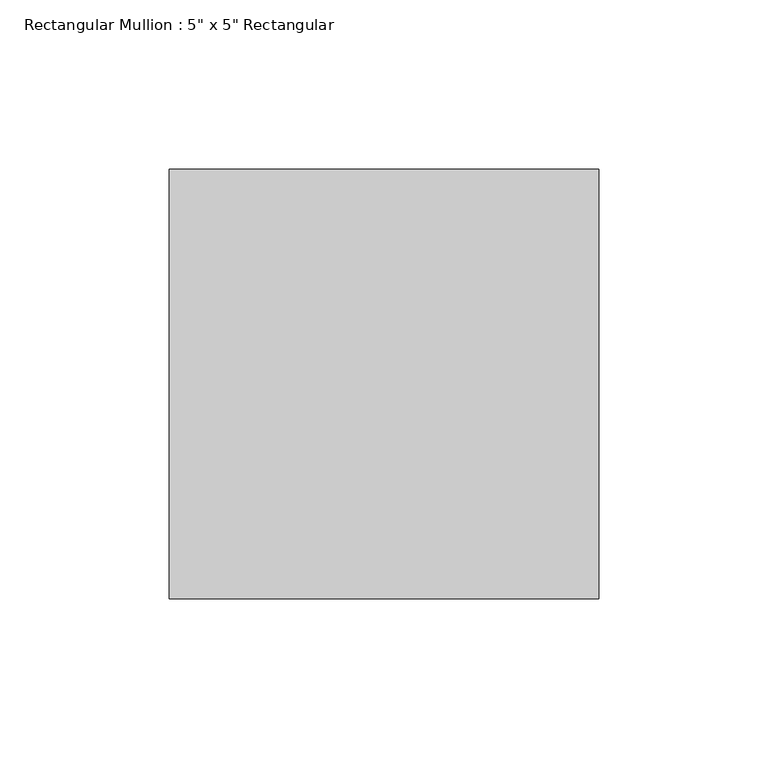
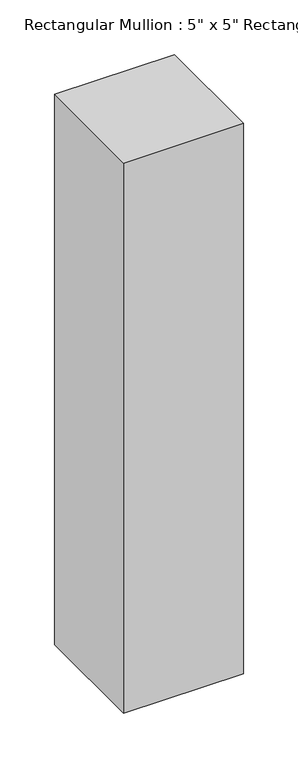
"""IFC4 building model written with IfcOpenShell, lengths in millimetres: member geometry."""

from ifc_helpers import new_model, si_unit, frame, origin, place, context, project, spatial, polyline, outline, extrude, source, transform, mapped, element, save


def member_10cd6abd(model_context):
    return source(origin(), model_context, "Body", "SweptSolid", [
        extrude(outline(polyline([(0.0, 63.5), (0.0, -63.5), (-127.0, -63.5), (-127.0, 63.5), (0.0, 63.5)])), frame((0.0, 0.0, -615.95), z_axis=(0.0, 0.0, 1.0), x_axis=(1.0, 0.0, 0.0)), (0.0, 0.0, 1.0), 615.95),
    ])


if __name__ == "__main__":
    model = new_model("IFC4")
    model_context = context("Model", 3, world=origin())
    ifc_project = project(units=[si_unit("LENGTHUNIT", "METRE", prefix="MILLI")], contexts=[model_context])
    site = spatial("IfcSite", under=ifc_project)
    building = spatial("IfcBuilding", under=site)
    placement = place(None, origin())
    member_shape = member_10cd6abd(model_context)
    element("IfcMember", 1, ObjectType="Rectangular Mullion : 5\" x 5\" Rectangular", at=placement, inside=building, context=model_context, shape_type="MappedRepresentation", body=[
        mapped(member_shape, transform((0.0, 0.0, 0.0), x_axis=(1.0, 0.0, 0.0), y_axis=(0.0, 1.0, 0.0), z_axis=(0.0, 0.0, 1.0))),
    ])
    save(model, "model.ifc")
